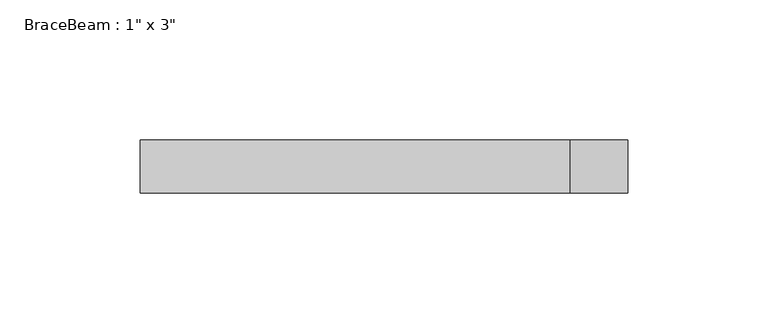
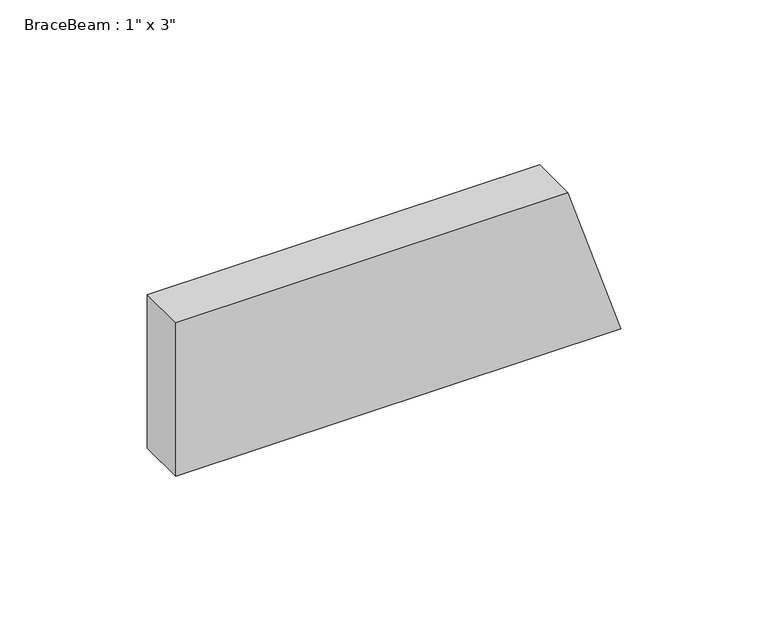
"""IFC4 building model written with IfcOpenShell, lengths in millimetres: beam geometry."""

from ifc_helpers import new_model, si_unit, origin, place, context, project, spatial, faceted_brep, source, transform, mapped, element, save


def beam_1caa885b(model_context):
    return source(origin(), model_context, "Body", "Brep", [
        faceted_brep([(-82.7536248, 9.525, -31.75), (91.4681023, 9.525, -31.75), (91.4681023, -9.525, -31.75), (-82.7536248, -9.525, -31.75), (81.1052551, -9.525, 0.0), (70.7424078, -9.525, 31.75), (-82.7536248, -9.525, 31.75), (70.7424078, 9.525, 31.75), (-82.7536248, 9.525, 31.75), (81.1052551, 9.525, 0.0)], [[[0, 1, 2, 3]], [[3, 2, 4, 5, 6]], [[6, 5, 7, 8]], [[8, 7, 9, 1, 0]], [[8, 0, 3, 6]], [[5, 4, 2, 1, 9, 7]]]),
    ])


if __name__ == "__main__":
    model = new_model("IFC4")
    model_context = context("Model", 3, world=origin())
    ifc_project = project(units=[si_unit("LENGTHUNIT", "METRE", prefix="MILLI")], contexts=[model_context])
    site = spatial("IfcSite", under=ifc_project)
    building = spatial("IfcBuilding", under=site)
    placement = place(None, origin())
    beam_shape = beam_1caa885b(model_context)
    element("IfcBeam", 1, ObjectType="BraceBeam : 1\" x 3\"", at=placement, inside=building, context=model_context, shape_type="MappedRepresentation", body=[
        mapped(beam_shape, transform((0.0, 0.0, 0.0), x_axis=(1.0, 0.0, 0.0), y_axis=(0.0, 1.0, 0.0), z_axis=(0.0, 0.0, 1.0))),
    ])
    save(model, "model.ifc")
